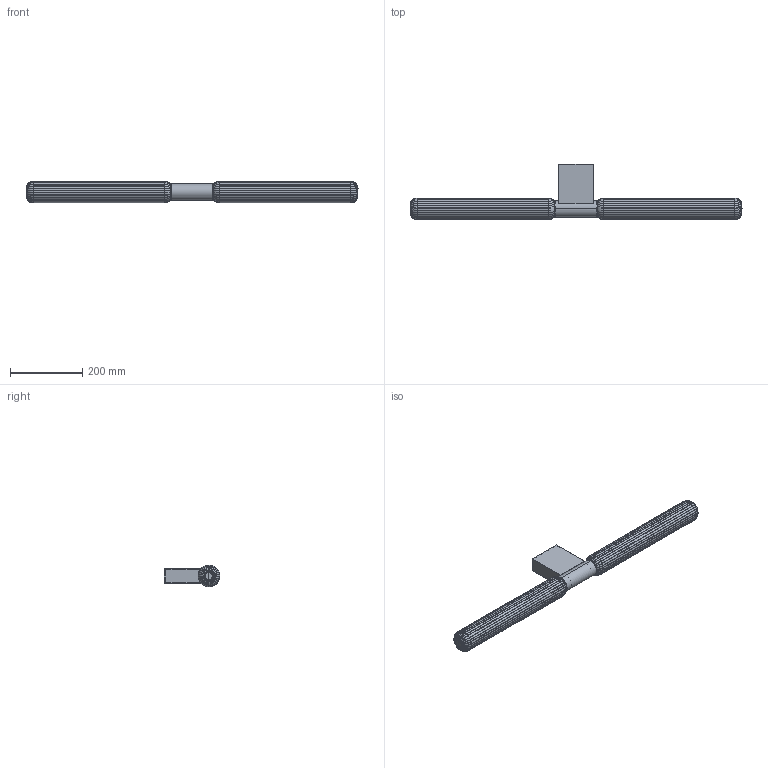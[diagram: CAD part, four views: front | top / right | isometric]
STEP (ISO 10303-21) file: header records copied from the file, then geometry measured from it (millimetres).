
FILE_DESCRIPTION(/* description */ (''),/* implementation_level */ '2;1');
FILE_NAME(/* name */ 'Cipher Wall CE',/* time_stamp */ '2019-01-22T10:48:04+01:00',/* author */ (''),/* organization */ (''),/* preprocessor_version */ 'ST-DEVELOPER v15',/* originating_system */ '',/* authorisation */ '');
FILE_SCHEMA (('AUTOMOTIVE_DESIGN'));
Length unit declared in the file: millimetre
Products named in the file (3): Document; Glass side; Block 16
Assembly tree (2 placements, depth 3):
  Document
    Glass side
      Block 16
Bounding box: 919.5 x 153.54 x 59.99 mm (x, y, z)
Volume: 687539.7 mm3; surface area: 415701.9 mm2
Topology: 6 solids, 6 shells, 550 faces, 1248 edges, 712 vertices
Faces by surface type: bspline 550
Entity records: 43955 total; most frequent: CARTESIAN_POINT 28456, B_SPLINE_CURVE_WITH_KNOTS 2832, ORIENTED_EDGE 2496, PCURVE 2496, DEFINITIONAL_REPRESENTATION 2496, SURFACE_CURVE 1248, EDGE_CURVE 1248, VERTEX_POINT 712
